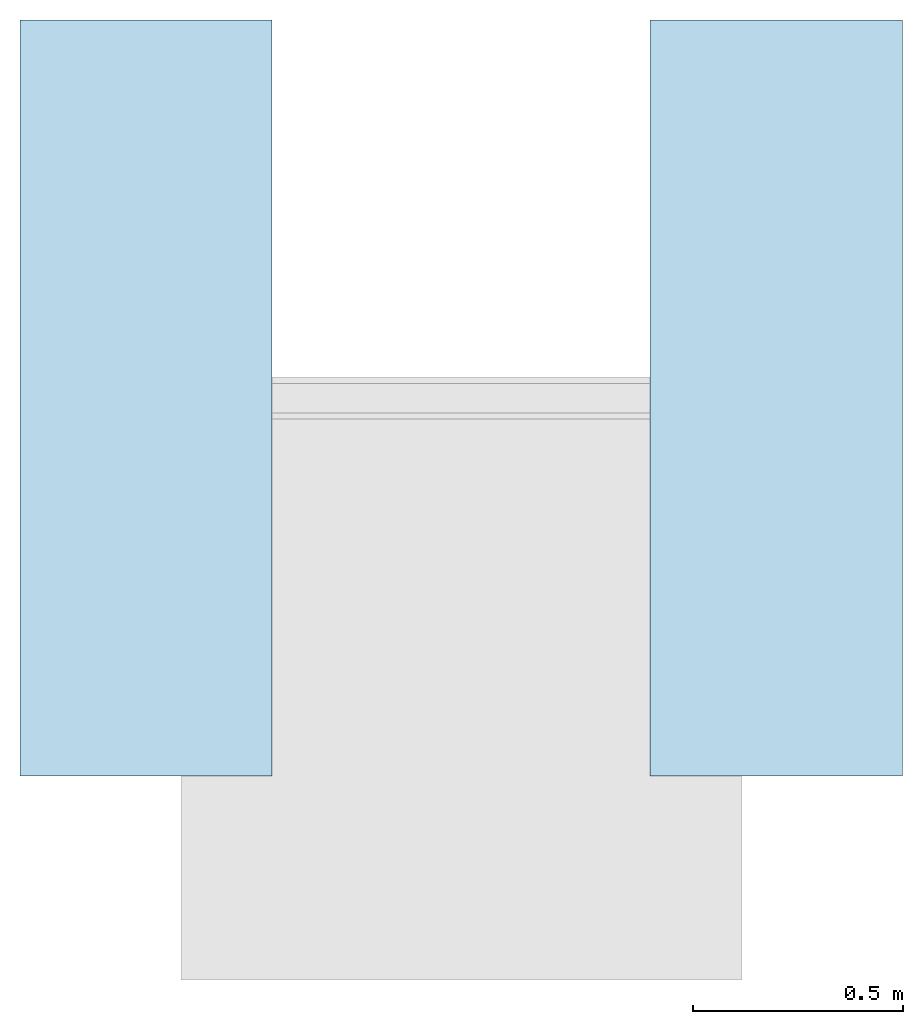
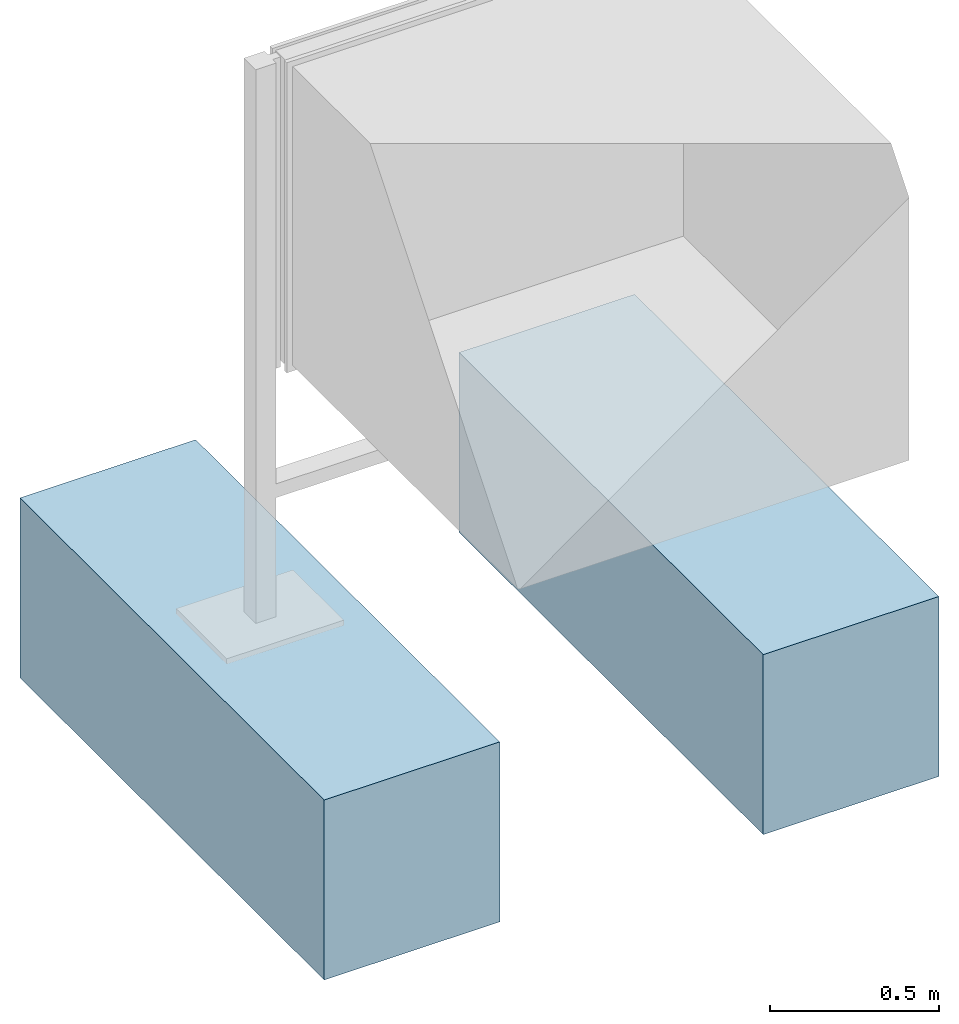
# One storey, incomplete: 2 slabs.
"""IFC4 building model written with IfcOpenShell, lengths in metres."""

from ifc_helpers import new_model, entity, si_unit, converted_unit, direction, frame, frame_2d, origin, origin_2d_with_axis, place, context, subcontext, project, spatial, rectangle, extrude, material, type_object, element, save


model = new_model("IFC4")

# Units and contexts
model_context = context("Model", 3, precision=1e-05, world=origin(), true_north=direction((6.123031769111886e-17, 1.0)))
body_context = subcontext(model_context, "Body", "Model", "MODEL_VIEW")
ifc_project = project(units=[si_unit("LENGTHUNIT", "METRE"), converted_unit("PLANEANGLEUNIT", "DEGREE", entity("IfcPlaneAngleMeasure", 0.017453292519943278), si_unit("PLANEANGLEUNIT", "RADIAN"), dimensions=[0, 0, 0, 0, 0, 0, 0]), si_unit("AREAUNIT", "SQUARE_METRE")], contexts=[model_context])

# Site, building, storey
site_placement = place(None, origin())
site = spatial("IfcSite", under=ifc_project, at=site_placement, Name="Default", CompositionType="ELEMENT")
building_placement = place(site_placement, origin())
building = spatial("IfcBuilding", under=site, at=building_placement, CompositionType="ELEMENT")
storey_placement = place(building_placement, origin())
storey = spatial("IfcBuildingStorey", under=building, at=storey_placement, Name="DB_Bezugshoehe_max_Bahnsteigkante", CompositionType="ELEMENT", Elevation=0.0)

# Slabs
ifc_material = material(Name="DB_Ortbeton", Category="DB_Beton")
slab_type = type_object("IfcSlabType", Name="DB_Vitrine_Fundament:DB_Vitrine_Fundament", PredefinedType="BASESLAB", material=ifc_material)
slab_1_placement = place(storey_placement, origin())
element("IfcSlab", 1, at=slab_1_placement, inside=storey, type_object=slab_type, Name="DB_Vitrine_Fundament:DB_Vitrine_Fundament", ObjectType="DB_Vitrine_Fundament:DB_Vitrine_Fundament", PredefinedType="BASESLAB", context=body_context, shape_type="SweptSolid", body=[
    extrude(rectangle(XDim=1.8, YDim=0.5999999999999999, at=origin_2d_with_axis()), frame((-0.0006257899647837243, 0.0, 0.04999999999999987), z_axis=(0.0, 0.0, 1.0), x_axis=(0.0, 1.0, 0.0)), (0.0, 0.0, 1.0), 0.5999999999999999),
    extrude(rectangle(XDim=0.5999999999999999, YDim=1.7999999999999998, at=origin_2d_with_axis()), frame((-0.0006257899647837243, 0.0, 0.0), z_axis=(0.0, 0.0, 1.0), x_axis=(-1.0, 0.0, 0.0)), (0.0, 0.0, 1.0), 0.04999999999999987),
])
slab_2_placement = place(storey_placement, origin())
element("IfcSlab", 2, at=slab_2_placement, inside=storey, type_object=slab_type, Name="DB_Vitrine_Fundament:DB_Vitrine_Fundament", ObjectType="DB_Vitrine_Fundament:DB_Vitrine_Fundament", PredefinedType="BASESLAB", context=body_context, shape_type="SweptSolid", body=[
    extrude(rectangle(XDim=1.8, YDim=0.5999999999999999, at=frame_2d((0.0, -8.326672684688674e-17), x_axis=(1.0, 0.0))), frame((1.4993742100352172, 0.0, 0.04999999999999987), z_axis=(0.0, 0.0, 1.0), x_axis=(0.0, 1.0, 0.0)), (0.0, 0.0, 1.0), 0.5999999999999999),
    extrude(rectangle(XDim=0.5999999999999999, YDim=1.7999999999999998, at=frame_2d((-1.3877787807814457e-16, 0.0), x_axis=(1.0, 0.0))), frame((1.4993742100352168, 0.0, 0.0), z_axis=(0.0, 0.0, 1.0), x_axis=(-1.0, 0.0, 0.0)), (0.0, 0.0, 1.0), 0.04999999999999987),
])

save(model, "model.ifc")
